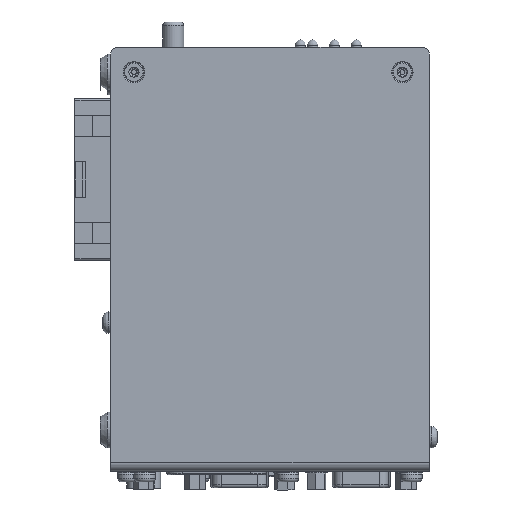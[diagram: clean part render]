
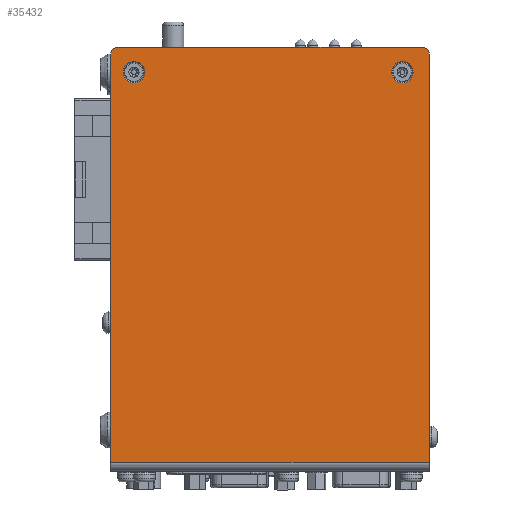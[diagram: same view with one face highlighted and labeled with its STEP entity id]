
A CAD part, left-side view. The second image highlights one B-rep face of the part: STEP entity #35432.
In plain terms, the highlighted planar face has unit normal (-1, 0, 0).
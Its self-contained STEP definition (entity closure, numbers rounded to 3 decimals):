
#1172=FACE_BOUND('',#12347,.T.);
#1173=FACE_BOUND('',#12348,.T.);
#2086=PLANE('',#38637);
#4421=LINE('',#58992,#7360);
#4424=LINE('',#59001,#7363);
#4432=LINE('',#59038,#7371);
#4435=LINE('',#59048,#7374);
#7360=VECTOR('',#46223,10.);
#7363=VECTOR('',#46232,10.);
#7371=VECTOR('',#46276,10.);
#7374=VECTOR('',#46291,10.);
#10096=FACE_OUTER_BOUND('',#12346,.T.);
#12346=EDGE_LOOP('',(#28799,#28800,#28801,#28802,#28803,#28804));
#12347=EDGE_LOOP('',(#28805,#28806));
#12348=EDGE_LOOP('',(#28807,#28808));
#14235=CIRCLE('',#38608,2.);
#14236=CIRCLE('',#38611,2.);
#14244=CIRCLE('',#38625,3.);
#14245=CIRCLE('',#38626,3.);
#14246=CIRCLE('',#38628,3.);
#14247=CIRCLE('',#38629,3.);
#16525=VERTEX_POINT('',#58984);
#16526=VERTEX_POINT('',#58985);
#16527=VERTEX_POINT('',#58990);
#16528=VERTEX_POINT('',#58994);
#16529=VERTEX_POINT('',#58995);
#16530=VERTEX_POINT('',#59000);
#16538=VERTEX_POINT('',#59026);
#16539=VERTEX_POINT('',#59027);
#16540=VERTEX_POINT('',#59032);
#16541=VERTEX_POINT('',#59033);
#20791=EDGE_CURVE('',#16525,#16526,#14235,.T.);
#20795=EDGE_CURVE('',#16527,#16525,#4421,.T.);
#20796=EDGE_CURVE('',#16528,#16529,#14236,.T.);
#20799=EDGE_CURVE('',#16529,#16530,#4424,.T.);
#20812=EDGE_CURVE('',#16538,#16539,#14244,.T.);
#20813=EDGE_CURVE('',#16539,#16538,#14245,.T.);
#20815=EDGE_CURVE('',#16540,#16541,#14246,.T.);
#20816=EDGE_CURVE('',#16541,#16540,#14247,.T.);
#20818=EDGE_CURVE('',#16527,#16530,#4432,.T.);
#20824=EDGE_CURVE('',#16526,#16528,#4435,.T.);
#28799=ORIENTED_EDGE('',*,*,#20791,.F.);
#28800=ORIENTED_EDGE('',*,*,#20795,.F.);
#28801=ORIENTED_EDGE('',*,*,#20818,.T.);
#28802=ORIENTED_EDGE('',*,*,#20799,.F.);
#28803=ORIENTED_EDGE('',*,*,#20796,.F.);
#28804=ORIENTED_EDGE('',*,*,#20824,.F.);
#28805=ORIENTED_EDGE('',*,*,#20812,.T.);
#28806=ORIENTED_EDGE('',*,*,#20813,.T.);
#28807=ORIENTED_EDGE('',*,*,#20815,.T.);
#28808=ORIENTED_EDGE('',*,*,#20816,.T.);
#35432=ADVANCED_FACE('',(#10096,#1172,#1173),#2086,.T.);
#38608=AXIS2_PLACEMENT_3D('',#58986,#46216,#46217);
#38611=AXIS2_PLACEMENT_3D('',#58996,#46226,#46227);
#38625=AXIS2_PLACEMENT_3D('',#59028,#46262,#46263);
#38626=AXIS2_PLACEMENT_3D('',#59029,#46264,#46265);
#38628=AXIS2_PLACEMENT_3D('',#59034,#46269,#46270);
#38629=AXIS2_PLACEMENT_3D('',#59035,#46271,#46272);
#38637=AXIS2_PLACEMENT_3D('',#59050,#46293,#46294);
#46216=DIRECTION('center_axis',(1.,0.,0.));
#46217=DIRECTION('ref_axis',(0.,0.707,0.707));
#46223=DIRECTION('',(0.,0.,1.));
#46226=DIRECTION('center_axis',(1.,0.,0.));
#46227=DIRECTION('ref_axis',(0.,-0.707,0.707));
#46232=DIRECTION('',(0.,0.,-1.));
#46262=DIRECTION('center_axis',(1.,0.,0.));
#46263=DIRECTION('ref_axis',(0.,0.,
-1.));
#46264=DIRECTION('center_axis',(1.,0.,0.));
#46265=DIRECTION('ref_axis',(0.,0.,
-1.));
#46269=DIRECTION('center_axis',(1.,0.,0.));
#46270=DIRECTION('ref_axis',(0.,0.,
-1.));
#46271=DIRECTION('center_axis',(1.,0.,0.));
#46272=DIRECTION('ref_axis',(0.,0.,
-1.));
#46276=DIRECTION('',(0.,-1.,0.));
#46291=DIRECTION('',(0.,-1.,0.));
#46293=DIRECTION('center_axis',(-1.,0.,0.));
#46294=DIRECTION('ref_axis',(0.,0.,
-1.));
#58984=CARTESIAN_POINT('',(-160.279,281.635,139.904));
#58985=CARTESIAN_POINT('',(-160.279,279.635,141.904));
#58986=CARTESIAN_POINT('Origin',(-160.279,279.635,139.904));
#58990=CARTESIAN_POINT('',(-160.279,281.635,25.904));
#58992=CARTESIAN_POINT('',(-160.279,281.635,25.904));
#58994=CARTESIAN_POINT('',(-160.279,194.635,141.904));
#58995=CARTESIAN_POINT('',(-160.279,192.635,139.904));
#58996=CARTESIAN_POINT('Origin',(-160.279,194.635,139.904));
#59000=CARTESIAN_POINT('',(-160.279,192.635,25.904));
#59001=CARTESIAN_POINT('',(-160.279,192.635,23.304));
#59026=CARTESIAN_POINT('',(-160.279,200.135,131.904));
#59027=CARTESIAN_POINT('',(-160.279,200.135,137.904));
#59028=CARTESIAN_POINT('Origin',(-160.279,200.135,134.904));
#59029=CARTESIAN_POINT('Origin',(-160.279,200.135,134.904));
#59032=CARTESIAN_POINT('',(-160.279,275.135,131.904));
#59033=CARTESIAN_POINT('',(-160.279,275.135,137.904));
#59034=CARTESIAN_POINT('Origin',(-160.279,275.135,134.904));
#59035=CARTESIAN_POINT('Origin',(-160.279,275.135,134.904));
#59038=CARTESIAN_POINT('',(-160.279,237.135,25.904));
#59048=CARTESIAN_POINT('',(-160.279,281.635,141.904));
#59050=CARTESIAN_POINT('Origin',(-160.279,237.135,82.604));
